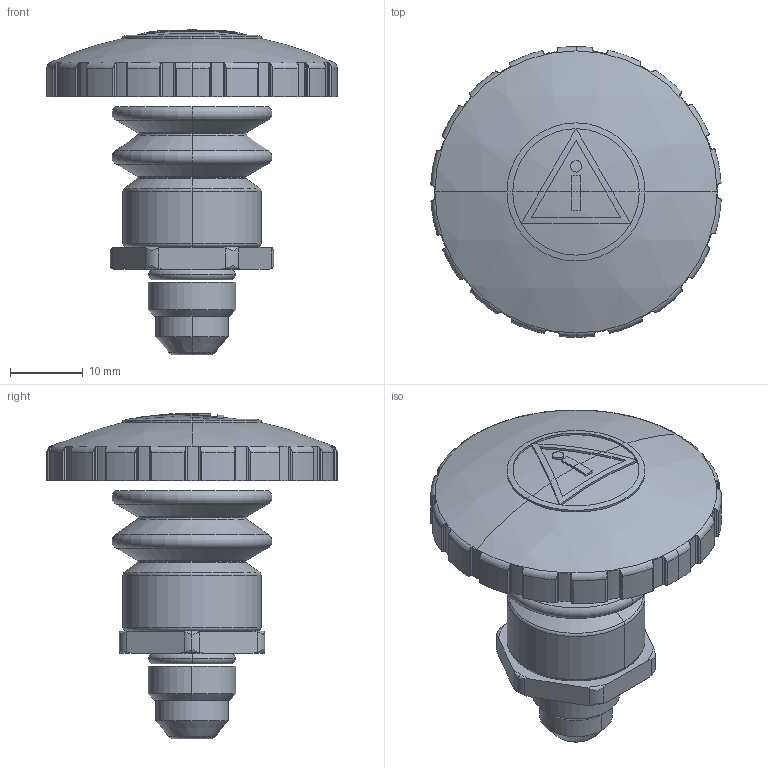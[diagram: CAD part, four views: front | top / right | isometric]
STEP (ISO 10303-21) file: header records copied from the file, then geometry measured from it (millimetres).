
FILE_DESCRIPTION (( 'STEP AP203' ), '1' );
FILE_NAME ('E-Stop Mechanism (step format).STEP', '2013-01-09T12:18:25', ( '' ), ( '' ), 'SwSTEP 2.0', 'SolidWorks 2010', '' );
FILE_SCHEMA (( 'CONFIG_CONTROL_DESIGN' ));
Length unit declared in the file: millimetre
Products named in the file (1): E-Stop Mechanism (step format)
Bounding box: 39.94 x 40 x 44.81 mm (x, y, z)
Surface area: 6517.2 mm2 (no closed solid volume)
Topology: 0 solids, 6 shells, 280 faces, 799 edges, 524 vertices
Faces by surface type: cylinder 148, plane 57, torus 44, sphere 15, cone 12, bspline 4
Entity records: 9978 total; most frequent: CARTESIAN_POINT 2668, ORIENTED_EDGE 1574, DIRECTION 1510, EDGE_CURVE 799, AXIS2_PLACEMENT_3D 622, VERTEX_POINT 524, CIRCLE 345, EDGE_LOOP 285
